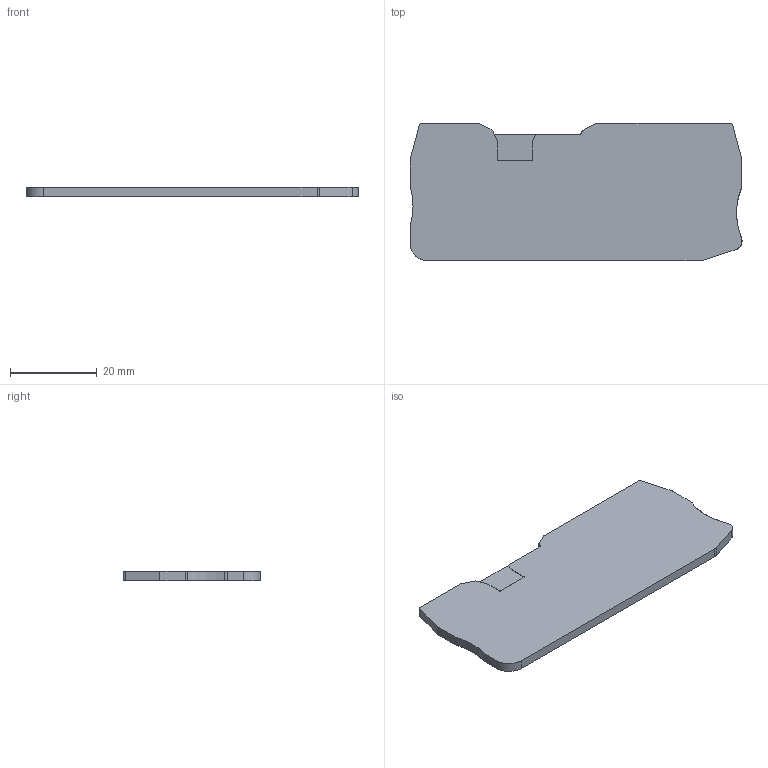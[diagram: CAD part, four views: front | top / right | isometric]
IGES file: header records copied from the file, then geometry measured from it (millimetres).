
Global section: file name: 3205190_d_qtc15twin_select.igs; native system: OneSpace Designer 3D IGES; preprocessor: 11.50A  18-Jul-2002; date: 20040210.072451; units: millimetre
Bounding box: 76.4 x 31.55 x 2.2 mm (x, y, z)
Surface area: 5077.5 mm2 (no closed solid volume)
Topology: 0 solids, 0 shells, 47 faces, 358 edges, 358 vertices
Faces by surface type: bspline 47
